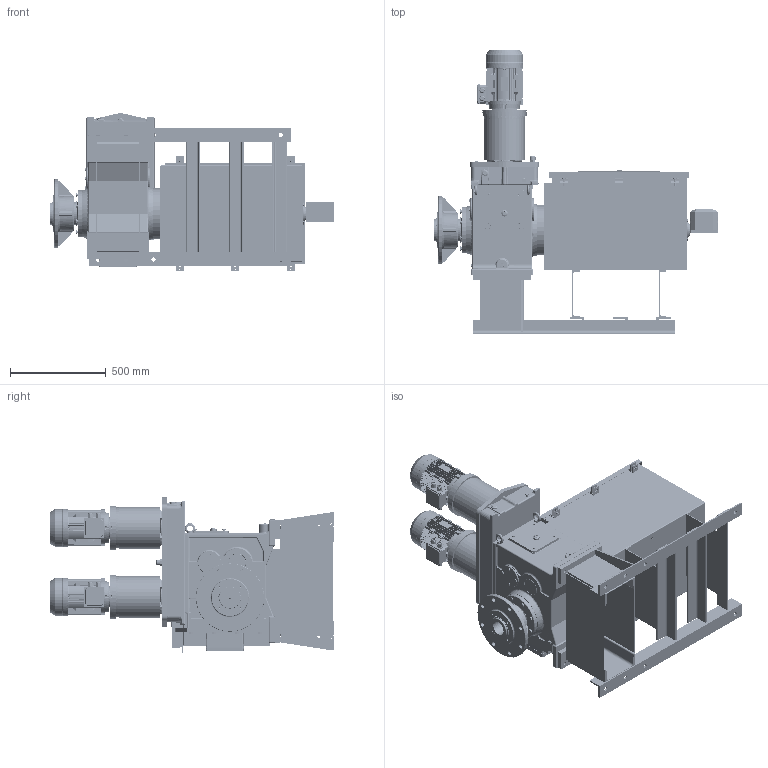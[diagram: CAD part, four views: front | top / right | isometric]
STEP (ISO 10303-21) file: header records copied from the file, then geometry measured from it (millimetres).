
FILE_DESCRIPTION(/* description */ (''),/* implementation_level */ '2;1');
FILE_NAME(/* name */ 'K:\NEMANJA\CABLE REEL\CABLE REEL DA\0700-6\07006002 DAPR-MCGBSR\STEP\75909 .stp',/* time_stamp */ '2017-03-16T10:42:10+01:00',/* author */ ('milman01'),/* organization */ ('Hillmar Industries Ltd.'),/* preprocessor_version */ 'ST-DEVELOPER v16.1',/* originating_system */ 'Autodesk Inventor 2016',/* authorisation */ '');
FILE_SCHEMA (('AUTOMOTIVE_DESIGN { 1 0 10303 214 3 1 1 }'));
Products named in the file (1): 75909 
Bounding box: 1482.35 x 1482.55 x 820.96 mm (x, y, z)
Volume: 69623748.6 mm3; surface area: 14263941.5 mm2
Topology: 18 solids, 18 shells, 10321 faces, 27950 edges, 18034 vertices
Faces by surface type: plane 6600, cylinder 2005, cone 855, bspline 529, torus 285, sphere 47
Full cylindrical faces by diameter (mm): 3 x8, 7 x4, 8 x26, 8.376 x12, 8.731 x1, 9 x19, 9.188 x4, 10 x30, 10.106 x50, 10.38 x6, 11 x20, 11.053 x10, 12 x32, 12.5 x6, 13 x34, 13.2 x6, 13.5 x8, 14 x8, 15 x14, 15.4 x4, 16.974 x4, 17.2 x10, 17.294 x4, 17.336 x1, 17.4 x8, 17.475 x1, 18 x8, 18.256 x3, 18.38 x4, 20 x14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
Entity records: 342948 total; most frequent: CARTESIAN_POINT 81557, ORIENTED_EDGE 53300, DIRECTION 49155, EDGE_CURVE 26621, VERTEX_POINT 17604, LINE 16489, VECTOR 16489, AXIS2_PLACEMENT_3D 16333
